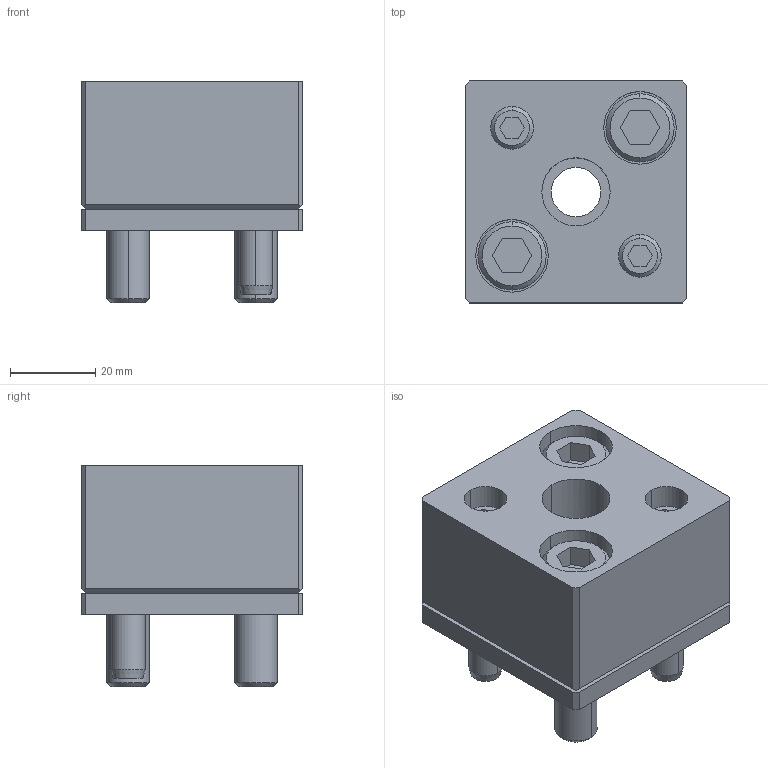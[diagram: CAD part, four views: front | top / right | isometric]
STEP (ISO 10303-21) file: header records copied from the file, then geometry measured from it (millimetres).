
FILE_DESCRIPTION(/* description */ (''),/* implementation_level */ '2;1');
FILE_NAME(/* name */ '3d_sr-fd16_05478_r00.stp',/* time_stamp */ '2011-01-10T14:09:59+09:00',/* author */ ('MISUMI'),/* organization */ (''),/* preprocessor_version */ 'ST-DEVELOPER v11',/* originating_system */ 'UGS - NX 5.0',/* authorisation */ '');
FILE_SCHEMA (('CONFIG_CONTROL_DESIGN'));
Length unit declared in the file: millimetre
Products named in the file (1): 3d_sr-fd16_05478_r00
Bounding box: 52 x 52 x 52 mm (x, y, z)
Volume: 86362.9 mm3; surface area: 30078.4 mm2
Topology: 8 solids, 8 shells, 159 faces, 364 edges, 235 vertices
Faces by surface type: plane 78, cylinder 55, cone 26
Entity records: 4636 total; most frequent: DIRECTION 814, CARTESIAN_POINT 806, ORIENTED_EDGE 728, EDGE_CURVE 364, AXIS2_PLACEMENT_3D 297, VERTEX_POINT 235, LINE 220, VECTOR 220
